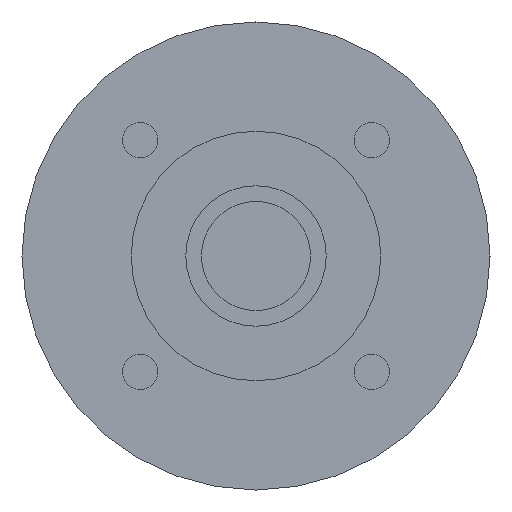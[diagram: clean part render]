
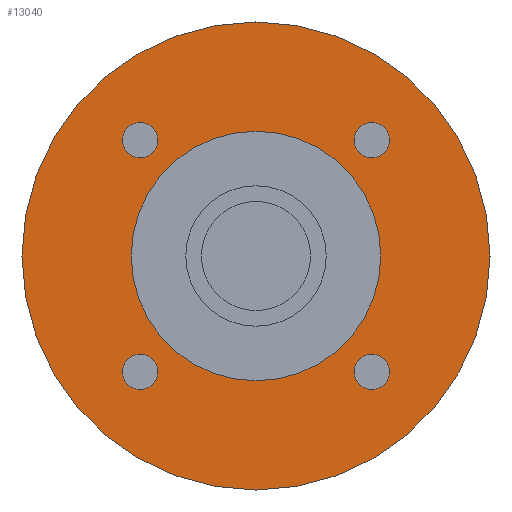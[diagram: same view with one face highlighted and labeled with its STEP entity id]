
A CAD part, left-side view. The second image highlights one B-rep face of the part: STEP entity #13040.
In plain terms, the highlighted planar face has unit normal (-1, 0, 0) as drawn and (0, 0, -1) by its records, which use the part's own axes.
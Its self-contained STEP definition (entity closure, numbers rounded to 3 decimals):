
#9080=CARTESIAN_POINT('',(-30.,0.,-35.));
#9090=VERTEX_POINT('',#9080);
#9180=CARTESIAN_POINT('',(30.,0.,-35.));
#9190=VERTEX_POINT('',#9180);
#9220=CARTESIAN_POINT('',(0.,0.,-35.
));
#9230=DIRECTION('',(0.,0.,1.));
#9240=DIRECTION('',(1.,0.,0.));
#9250=AXIS2_PLACEMENT_3D('',#9220,#9230,#9240);
#9260=CIRCLE('',#9250,30.);
#9270=CARTESIAN_POINT('',(0.,-30.,-35.));
#9280=VERTEX_POINT('',#9270);
#9290=EDGE_CURVE('',#9280,#9190,#9260,.T.);
#9310=EDGE_CURVE('',#9090,#9280,#9260,.T.);
#12010=CARTESIAN_POINT('',(14.849,12.599,-35.));
#12020=VERTEX_POINT('',#12010);
#12050=CARTESIAN_POINT('',(14.849,14.849,-35.));
#12060=DIRECTION('',(0.,0.,-1.));
#12070=DIRECTION('',(0.,1.,0.));
#12080=AXIS2_PLACEMENT_3D('',#12050,#12060,#12070);
#12090=CIRCLE('',#12080,2.25);
#12100=CARTESIAN_POINT('',(14.849,17.099,-35.));
#12110=VERTEX_POINT('',#12100);
#12120=EDGE_CURVE('',#12110,#12020,#12090,.T.);
#12240=CARTESIAN_POINT('',(0.,0.,
-35.));
#12250=DIRECTION('',(0.,0.,-1.));
#12260=DIRECTION('',(1.,0.,0.));
#12270=AXIS2_PLACEMENT_3D('',#12240,#12250,#12260);
#12280=PLANE('',#12270);
#12290=ORIENTED_EDGE('',*,*,#12120,.F.);
#12300=EDGE_CURVE('',#12020,#12110,#12090,.T.);
#12310=ORIENTED_EDGE('',*,*,#12300,.F.);
#12320=EDGE_LOOP('',(#12310,#12290));
#12330=FACE_BOUND('',#12320,.T.);
#12340=CARTESIAN_POINT('',(-14.849,14.849,-35.));
#12350=DIRECTION('',(0.,0.,-1.));
#12360=DIRECTION('',(-1.,0.,0.));
#12370=AXIS2_PLACEMENT_3D('',#12340,#12350,#12360);
#12380=CIRCLE('',#12370,2.25);
#12390=CARTESIAN_POINT('',(-17.099,14.849,-35.));
#12400=VERTEX_POINT('',#12390);
#12410=CARTESIAN_POINT('',(-12.599,14.849,-35.));
#12420=VERTEX_POINT('',#12410);
#12430=EDGE_CURVE('',#12400,#12420,#12380,.T.);
#12440=ORIENTED_EDGE('',*,*,#12430,.F.);
#12450=EDGE_CURVE('',#12420,#12400,#12380,.T.);
#12460=ORIENTED_EDGE('',*,*,#12450,.F.);
#12470=EDGE_LOOP('',(#12460,#12440));
#12480=FACE_BOUND('',#12470,.T.);
#12490=CARTESIAN_POINT('',(-14.849,-14.849,-35.));
#12500=DIRECTION('',(0.,0.,-1.));
#12510=DIRECTION('',(0.,-1.,0.));
#12520=AXIS2_PLACEMENT_3D('',#12490,#12500,#12510);
#12530=CIRCLE('',#12520,2.25);
#12540=CARTESIAN_POINT('',(-14.849,-17.099,-35.));
#12550=VERTEX_POINT('',#12540);
#12560=CARTESIAN_POINT('',(-14.849,-12.599,-35.));
#12570=VERTEX_POINT('',#12560);
#12580=EDGE_CURVE('',#12550,#12570,#12530,.T.);
#12590=ORIENTED_EDGE('',*,*,#12580,.F.);
#12600=EDGE_CURVE('',#12570,#12550,#12530,.T.);
#12610=ORIENTED_EDGE('',*,*,#12600,.F.);
#12620=EDGE_LOOP('',(#12610,#12590));
#12630=FACE_BOUND('',#12620,.T.);
#12640=CARTESIAN_POINT('',(0.,0.,
-35.));
#12650=DIRECTION('',(0.,0.,1.));
#12660=DIRECTION('',(0.,1.,0.));
#12670=AXIS2_PLACEMENT_3D('',#12640,#12650,#12660);
#12680=CIRCLE('',#12670,16.);
#12690=CARTESIAN_POINT('',(-16.,0.,-35.));
#12700=VERTEX_POINT('',#12690);
#12710=CARTESIAN_POINT('',(16.,0.,-35.));
#12720=VERTEX_POINT('',#12710);
#12730=EDGE_CURVE('',#12700,#12720,#12680,.T.);
#12740=ORIENTED_EDGE('',*,*,#12730,.T.);
#12750=CARTESIAN_POINT('',(0.,16.,-35.));
#12760=VERTEX_POINT('',#12750);
#12770=EDGE_CURVE('',#12760,#12700,#12680,.T.);
#12780=ORIENTED_EDGE('',*,*,#12770,.T.);
#12790=EDGE_CURVE('',#12720,#12760,#12680,.T.);
#12800=ORIENTED_EDGE('',*,*,#12790,.T.);
#12810=EDGE_LOOP('',(#12800,#12780,#12740));
#12820=FACE_BOUND('',#12810,.T.);
#12830=CARTESIAN_POINT('',(14.849,-14.849,-35.));
#12840=DIRECTION('',(0.,0.,-1.));
#12850=DIRECTION('',(1.,0.,0.));
#12860=AXIS2_PLACEMENT_3D('',#12830,#12840,#12850);
#12870=CIRCLE('',#12860,2.25);
#12880=CARTESIAN_POINT('',(17.099,-14.849,-35.));
#12890=VERTEX_POINT('',#12880);
#12900=CARTESIAN_POINT('',(12.599,-14.849,-35.));
#12910=VERTEX_POINT('',#12900);
#12920=EDGE_CURVE('',#12890,#12910,#12870,.T.);
#12930=ORIENTED_EDGE('',*,*,#12920,.F.);
#12940=EDGE_CURVE('',#12910,#12890,#12870,.T.);
#12950=ORIENTED_EDGE('',*,*,#12940,.F.);
#12960=EDGE_LOOP('',(#12950,#12930));
#12970=FACE_BOUND('',#12960,.T.);
#12980=ORIENTED_EDGE('',*,*,#9290,.F.);
#12990=EDGE_CURVE('',#9190,#9090,#9260,.T.);
#13000=ORIENTED_EDGE('',*,*,#12990,.F.);
#13010=ORIENTED_EDGE('',*,*,#9310,.F.);
#13020=EDGE_LOOP('',(#13010,#13000,#12980));
#13030=FACE_OUTER_BOUND('',#13020,.T.);
#13040=ADVANCED_FACE('',(#12330,#12480,#12630,#12820,#12970,#13030),
#12280,.T.);
